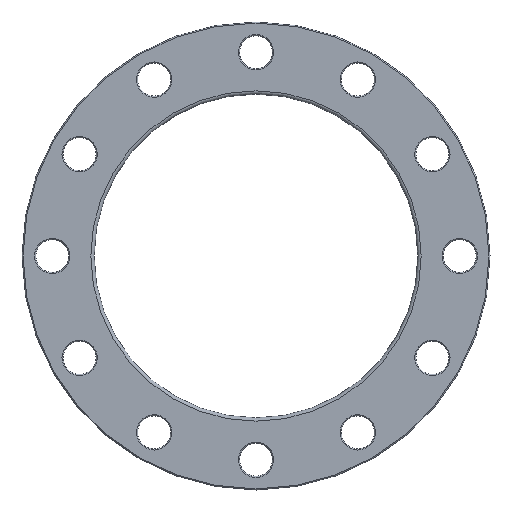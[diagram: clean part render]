
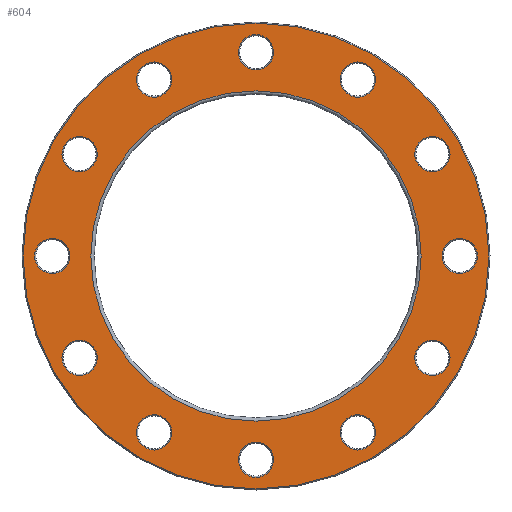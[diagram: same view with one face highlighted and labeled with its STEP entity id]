
A CAD part, front view. The second image highlights one B-rep face of the part: STEP entity #604.
In plain terms, the highlighted planar face has unit normal (0, -1, 0).
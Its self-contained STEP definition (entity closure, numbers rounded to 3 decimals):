
#23=PLANE('',#712);
#134=ORIENTED_EDGE('',*,*,#213,.T.);
#135=ORIENTED_EDGE('',*,*,#214,.T.);
#136=ORIENTED_EDGE('',*,*,#164,.T.);
#137=ORIENTED_EDGE('',*,*,#168,.T.);
#138=ORIENTED_EDGE('',*,*,#172,.T.);
#139=ORIENTED_EDGE('',*,*,#176,.T.);
#140=ORIENTED_EDGE('',*,*,#180,.T.);
#141=ORIENTED_EDGE('',*,*,#184,.T.);
#142=ORIENTED_EDGE('',*,*,#188,.T.);
#143=ORIENTED_EDGE('',*,*,#192,.T.);
#144=ORIENTED_EDGE('',*,*,#196,.T.);
#145=ORIENTED_EDGE('',*,*,#200,.T.);
#146=ORIENTED_EDGE('',*,*,#204,.T.);
#147=ORIENTED_EDGE('',*,*,#215,.T.);
#164=EDGE_CURVE('',#220,#220,#276,.T.);
#168=EDGE_CURVE('',#224,#224,#280,.T.);
#172=EDGE_CURVE('',#228,#228,#284,.T.);
#176=EDGE_CURVE('',#232,#232,#288,.T.);
#180=EDGE_CURVE('',#236,#236,#292,.T.);
#184=EDGE_CURVE('',#240,#240,#296,.T.);
#188=EDGE_CURVE('',#244,#244,#300,.T.);
#192=EDGE_CURVE('',#248,#248,#304,.T.);
#196=EDGE_CURVE('',#252,#252,#308,.T.);
#200=EDGE_CURVE('',#256,#256,#312,.T.);
#204=EDGE_CURVE('',#260,#260,#316,.T.);
#213=EDGE_CURVE('',#269,#269,#325,.F.);
#214=EDGE_CURVE('',#270,#270,#326,.T.);
#215=EDGE_CURVE('',#271,#271,#327,.T.);
#220=VERTEX_POINT('',#935);
#224=VERTEX_POINT('',#946);
#228=VERTEX_POINT('',#957);
#232=VERTEX_POINT('',#968);
#236=VERTEX_POINT('',#979);
#240=VERTEX_POINT('',#990);
#244=VERTEX_POINT('',#1001);
#248=VERTEX_POINT('',#1012);
#252=VERTEX_POINT('',#1023);
#256=VERTEX_POINT('',#1034);
#260=VERTEX_POINT('',#1045);
#269=VERTEX_POINT('',#1068);
#270=VERTEX_POINT('',#1070);
#271=VERTEX_POINT('',#1072);
#276=CIRCLE('',#629,16.);
#280=CIRCLE('',#636,16.);
#284=CIRCLE('',#643,16.);
#288=CIRCLE('',#650,16.);
#292=CIRCLE('',#657,16.);
#296=CIRCLE('',#664,16.);
#300=CIRCLE('',#671,16.);
#304=CIRCLE('',#678,16.);
#308=CIRCLE('',#685,16.);
#312=CIRCLE('',#692,16.);
#316=CIRCLE('',#699,16.);
#325=CIRCLE('',#713,211.5);
#326=CIRCLE('',#714,150.);
#327=CIRCLE('',#715,16.);
#414=EDGE_LOOP('',(#134));
#415=EDGE_LOOP('',(#135));
#416=EDGE_LOOP('',(#136));
#417=EDGE_LOOP('',(#137));
#418=EDGE_LOOP('',(#138));
#419=EDGE_LOOP('',(#139));
#420=EDGE_LOOP('',(#140));
#421=EDGE_LOOP('',(#141));
#422=EDGE_LOOP('',(#142));
#423=EDGE_LOOP('',(#143));
#424=EDGE_LOOP('',(#144));
#425=EDGE_LOOP('',(#145));
#426=EDGE_LOOP('',(#146));
#427=EDGE_LOOP('',(#147));
#526=FACE_BOUND('',#414,.T.);
#527=FACE_BOUND('',#415,.T.);
#528=FACE_BOUND('',#416,.T.);
#529=FACE_BOUND('',#417,.T.);
#530=FACE_BOUND('',#418,.T.);
#531=FACE_BOUND('',#419,.T.);
#532=FACE_BOUND('',#420,.T.);
#533=FACE_BOUND('',#421,.T.);
#534=FACE_BOUND('',#422,.T.);
#535=FACE_BOUND('',#423,.T.);
#536=FACE_BOUND('',#424,.T.);
#537=FACE_BOUND('',#425,.T.);
#538=FACE_BOUND('',#426,.T.);
#539=FACE_BOUND('',#427,.T.);
#604=ADVANCED_FACE('',(#526,#527,#528,#529,#530,#531,#532,#533,#534,#535,
#536,#537,#538,#539),#23,.F.);
#629=AXIS2_PLACEMENT_3D('',#934,#735,#736);
#636=AXIS2_PLACEMENT_3D('',#945,#749,#750);
#643=AXIS2_PLACEMENT_3D('',#956,#763,#764);
#650=AXIS2_PLACEMENT_3D('',#967,#777,#778);
#657=AXIS2_PLACEMENT_3D('',#978,#791,#792);
#664=AXIS2_PLACEMENT_3D('',#989,#805,#806);
#671=AXIS2_PLACEMENT_3D('',#1000,#819,#820);
#678=AXIS2_PLACEMENT_3D('',#1011,#833,#834);
#685=AXIS2_PLACEMENT_3D('',#1022,#847,#848);
#692=AXIS2_PLACEMENT_3D('',#1033,#861,#862);
#699=AXIS2_PLACEMENT_3D('',#1044,#875,#876);
#712=AXIS2_PLACEMENT_3D('',#1066,#901,#902);
#713=AXIS2_PLACEMENT_3D('',#1067,#903,#904);
#714=AXIS2_PLACEMENT_3D('',#1069,#905,#906);
#715=AXIS2_PLACEMENT_3D('',#1071,#907,#908);
#735=DIRECTION('',(0.,1.,0.));
#736=DIRECTION('',(0.866,0.,0.5));
#749=DIRECTION('',(0.,1.,0.));
#750=DIRECTION('',(0.5,0.,0.866));
#763=DIRECTION('',(0.,1.,0.));
#764=DIRECTION('',(0.,0.,1.));
#777=DIRECTION('',(0.,1.,0.));
#778=DIRECTION('',(-0.5,0.,0.866));
#791=DIRECTION('',(0.,1.,0.));
#792=DIRECTION('',(-0.866,0.,0.5));
#805=DIRECTION('',(0.,1.,0.));
#806=DIRECTION('',(-1.,0.,0.));
#819=DIRECTION('',(0.,1.,0.));
#820=DIRECTION('',(-0.866,0.,-0.5));
#833=DIRECTION('',(0.,1.,0.));
#834=DIRECTION('',(-0.5,0.,-0.866));
#847=DIRECTION('',(0.,1.,0.));
#848=DIRECTION('',(0.,0.,-1.));
#861=DIRECTION('',(0.,1.,0.));
#862=DIRECTION('',(0.5,0.,-0.866));
#875=DIRECTION('',(0.,1.,0.));
#876=DIRECTION('',(0.866,0.,-0.5));
#901=DIRECTION('',(0.,1.,0.));
#902=DIRECTION('',(0.,0.,1.));
#903=DIRECTION('',(0.,1.,0.));
#904=DIRECTION('',(0.,0.,1.));
#905=DIRECTION('',(0.,1.,0.));
#906=DIRECTION('',(0.,0.,1.));
#907=DIRECTION('',(0.,1.,0.));
#908=DIRECTION('',(1.,0.,0.));
#934=CARTESIAN_POINT('',(-92.5,0.,160.215));
#935=CARTESIAN_POINT('',(-78.644,0.,168.215));
#945=CARTESIAN_POINT('',(-160.215,0.,92.5));
#946=CARTESIAN_POINT('',(-152.215,0.,106.356));
#956=CARTESIAN_POINT('',(-185.,0.,0.));
#957=CARTESIAN_POINT('',(-185.,0.,16.));
#967=CARTESIAN_POINT('',(-160.215,0.,-92.5));
#968=CARTESIAN_POINT('',(-168.215,0.,-78.644));
#978=CARTESIAN_POINT('',(-92.5,0.,-160.215));
#979=CARTESIAN_POINT('',(-106.356,0.,-152.215));
#989=CARTESIAN_POINT('',(0.,0.,-185.));
#990=CARTESIAN_POINT('',(-16.,0.,-185.));
#1000=CARTESIAN_POINT('',(92.5,0.,-160.215));
#1001=CARTESIAN_POINT('',(78.644,0.,-168.215));
#1011=CARTESIAN_POINT('',(160.215,0.,-92.5));
#1012=CARTESIAN_POINT('',(152.215,0.,-106.356));
#1022=CARTESIAN_POINT('',(185.,0.,0.));
#1023=CARTESIAN_POINT('',(185.,0.,-16.));
#1033=CARTESIAN_POINT('',(160.215,0.,92.5));
#1034=CARTESIAN_POINT('',(168.215,0.,78.644));
#1044=CARTESIAN_POINT('',(92.5,0.,160.215));
#1045=CARTESIAN_POINT('',(106.356,0.,152.215));
#1066=CARTESIAN_POINT('',(0.,0.,0.));
#1067=CARTESIAN_POINT('',(0.,0.,0.));
#1068=CARTESIAN_POINT('',(0.,0.,211.5));
#1069=CARTESIAN_POINT('',(0.,0.,0.));
#1070=CARTESIAN_POINT('',(0.,0.,150.));
#1071=CARTESIAN_POINT('',(0.,0.,185.));
#1072=CARTESIAN_POINT('',(16.,0.,185.));
